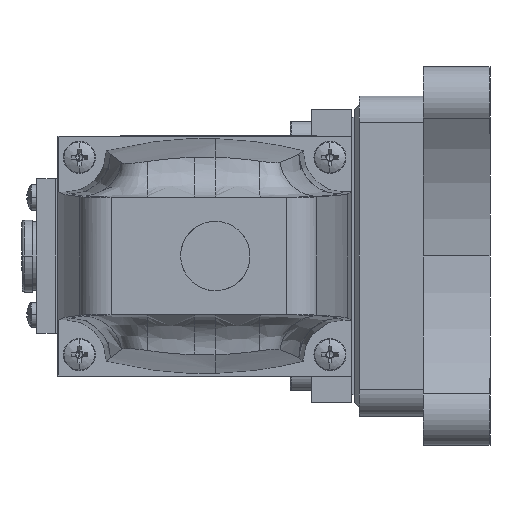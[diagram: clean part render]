
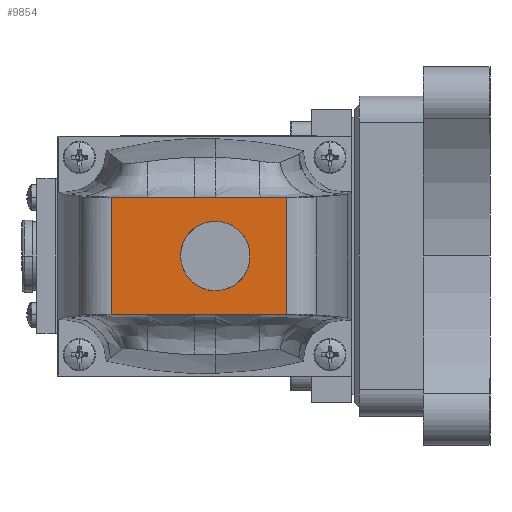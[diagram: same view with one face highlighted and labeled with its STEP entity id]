
A CAD part, left-side view. The second image highlights one B-rep face of the part: STEP entity #9854.
In plain terms, the highlighted planar face has unit normal (-1, 0, 0) as drawn and (0, 1, 0) by its records, which use the part's own axes.
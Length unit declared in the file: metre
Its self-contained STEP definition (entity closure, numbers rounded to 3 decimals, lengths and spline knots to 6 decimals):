
#94 = DIRECTION ( 'NONE',  ( -1., 0., 0. ) ) ;
#586 = ORIENTED_EDGE ( 'NONE', *, *, #8154, .T. ) ;
#1089 = EDGE_LOOP ( 'NONE', ( #1147, #586, #7686, #7956 ) ) ;
#1147 = ORIENTED_EDGE ( 'NONE', *, *, #10844, .F. ) ;
#1220 = CARTESIAN_POINT ( 'NONE',  ( -0.013, 0.2419, 0.001702 ) ) ;
#1631 = VERTEX_POINT ( 'NONE', #11099 ) ;
#1725 = LINE ( 'NONE', #11275, #11632 ) ;
#1867 = VERTEX_POINT ( 'NONE', #12520 ) ;
#2100 = EDGE_CURVE ( 'NONE', #1867, #1631, #10344, .T. ) ;
#2369 = CARTESIAN_POINT ( 'NONE',  ( 0., 0.2419, -0.013 ) ) ;
#2414 = CARTESIAN_POINT ( 'NONE',  ( -0.011359, 0.2419, 0.006547 ) ) ;
#2543 = FACE_BOUND ( 'NONE', #14559, .T. ) ;
#2829 = CARTESIAN_POINT ( 'NONE',  ( 0.001702, 0.2419, 0.013 ) ) ;
#3103 = EDGE_CURVE ( 'NONE', #6075, #9128, #4048, .T. ) ;
#3221 = CARTESIAN_POINT ( 'NONE',  ( 0.011359, 0.2419, 0.006547 ) ) ;
#3240 = CARTESIAN_POINT ( 'NONE',  ( 0.013, 0.2419, 0.001702 ) ) ;
#3269 = CARTESIAN_POINT ( 'NONE',  ( 0.012662, 0.2419, 0.003403 ) ) ;
#3299 = LINE ( 'NONE', #11006, #11147 ) ;
#3618 = CARTESIAN_POINT ( 'NONE',  ( -0.007989, 0.2419, 0.010396 ) ) ;
#3632 = CARTESIAN_POINT ( 'NONE',  ( 0., 0.2419, 0.013 ) ) ;
#3649 = CARTESIAN_POINT ( 'NONE',  ( 0.006547, 0.2419, -0.011359 ) ) ;
#3660 = CARTESIAN_POINT ( 'NONE',  ( 0., 0.2419, -0.026787 ) ) ;
#3682 = CARTESIAN_POINT ( 'NONE',  ( 0., 0.2419, -0.013 ) ) ;
#3717 = CARTESIAN_POINT ( 'NONE',  ( 0.001702, 0.2419, -0.013 ) ) ;
#3726 = CARTESIAN_POINT ( 'NONE',  ( 0.006547, 0.2419, 0.011359 ) ) ;
#3745 = CARTESIAN_POINT ( 'NONE',  ( 0.007989, 0.2419, 0.010396 ) ) ;
#3769 = CARTESIAN_POINT ( 'NONE',  ( 0.010396, 0.2419, 0.007989 ) ) ;
#3789 = CARTESIAN_POINT ( 'NONE',  ( 0.012662, 0.2419, -0.003403 ) ) ;
#3928 = CARTESIAN_POINT ( 'NONE',  ( 0.010396, 0.2419, -0.007989 ) ) ;
#3964 = CARTESIAN_POINT ( 'NONE',  ( 0.011359, 0.2419, -0.006547 ) ) ;
#4007 = CARTESIAN_POINT ( 'NONE',  ( 0.003403, 0.2419, 0.012662 ) ) ;
#4048 = LINE ( 'NONE', #3660, #14135 ) ;
#4359 = CARTESIAN_POINT ( 'NONE',  ( 0.013, 0.2419, -0.001702 ) ) ;
#4422 = CARTESIAN_POINT ( 'NONE',  ( 0.003403, 0.2419, -0.012662 ) ) ;
#4440 = B_SPLINE_CURVE_WITH_KNOTS ( 'NONE', 3,
 ( #2369, #5993, #4771, #13651, #6048, #14910, #7297, #16123, #8562, #1220, #9853, #2414, #11143, #3618, #12415, #4826, #13697, #6112 ),
 .UNSPECIFIED., .F., .F.,
 ( 4, 2, 2, 2, 2, 2, 2, 2, 4 ),
 ( 0., 0.125, 0.25, 0.375, 0.5, 0.625, 0.75, 0.875, 1. ),
 .UNSPECIFIED. ) ;
#4771 = CARTESIAN_POINT ( 'NONE',  ( -0.003403, 0.2419, -0.012662 ) ) ;
#4826 = CARTESIAN_POINT ( 'NONE',  ( -0.003403, 0.2419, 0.012662 ) ) ;
#5436 = CARTESIAN_POINT ( 'NONE',  ( -0.022, 0.2419, -0.026787 ) ) ;
#5863 = CARTESIAN_POINT ( 'NONE',  ( 0.007989, 0.2419, -0.010396 ) ) ;
#5993 = CARTESIAN_POINT ( 'NONE',  ( -0.001702, 0.2419, -0.013 ) ) ;
#6048 = CARTESIAN_POINT ( 'NONE',  ( -0.007989, 0.2419, -0.010396 ) ) ;
#6075 = VERTEX_POINT ( 'NONE', #12561 ) ;
#6112 = CARTESIAN_POINT ( 'NONE',  ( 0., 0.2419, 0.013 ) ) ;
#7025 = EDGE_CURVE ( 'NONE', #8182, #9128, #1725, .T. ) ;
#7297 = CARTESIAN_POINT ( 'NONE',  ( -0.011359, 0.2419, -0.006547 ) ) ;
#7686 = ORIENTED_EDGE ( 'NONE', *, *, #3103, .T. ) ;
#7956 = ORIENTED_EDGE ( 'NONE', *, *, #7025, .F. ) ;
#8088 = CARTESIAN_POINT ( 'NONE',  ( 0.022, 0.2419, 0.039094 ) ) ;
#8154 = EDGE_CURVE ( 'NONE', #9790, #6075, #12794, .T. ) ;
#8182 = VERTEX_POINT ( 'NONE', #11271 ) ;
#8562 = CARTESIAN_POINT ( 'NONE',  ( -0.013, 0.2419, -0.001702 ) ) ;
#9128 = VERTEX_POINT ( 'NONE', #5436 ) ;
#9148 = CARTESIAN_POINT ( 'NONE',  ( -0.022, 0.2419, 0.039094 ) ) ;
#9287 = DIRECTION ( 'NONE',  ( 0., -1., 0. ) ) ;
#9306 = PLANE ( 'NONE',  #9545 ) ;
#9545 = AXIS2_PLACEMENT_3D ( 'NONE', #9148, #9287, #9679 ) ;
#9641 = CARTESIAN_POINT ( 'NONE',  ( 0.022, 0.2419, 0.004 ) ) ;
#9679 = DIRECTION ( 'NONE',  ( 0., 0., -1. ) ) ;
#9790 = VERTEX_POINT ( 'NONE', #8088 ) ;
#9853 = CARTESIAN_POINT ( 'NONE',  ( -0.012662, 0.2419, 0.003403 ) ) ;
#9854 = ADVANCED_FACE ( 'NONE', ( #2543, #12919 ), #9306, .F. ) ;
#10344 = B_SPLINE_CURVE_WITH_KNOTS ( 'NONE', 3,
 ( #3632, #2829, #4007, #3726, #3745, #3769, #3221, #3269, #3240, #4359, #3789, #3964, #3928, #5863, #3649, #4422, #3717, #3682 ),
 .UNSPECIFIED., .F., .F.,
 ( 4, 2, 2, 2, 2, 2, 2, 2, 4 ),
 ( 0., 0.125, 0.25, 0.375, 0.5, 0.625, 0.75, 0.875, 1. ),
 .UNSPECIFIED. ) ;
#10844 = EDGE_CURVE ( 'NONE', #9790, #8182, #3299, .T. ) ;
#10956 = DIRECTION ( 'NONE',  ( -1., 0., 0. ) ) ;
#11006 = CARTESIAN_POINT ( 'NONE',  ( 0., 0.2419, 0.039094 ) ) ;
#11046 = DIRECTION ( 'NONE',  ( 0., 0., -1. ) ) ;
#11048 = DIRECTION ( 'NONE',  ( 0., 0., -1. ) ) ;
#11099 = CARTESIAN_POINT ( 'NONE',  ( 0., 0.2419, -0.013 ) ) ;
#11143 = CARTESIAN_POINT ( 'NONE',  ( -0.010396, 0.2419, 0.007989 ) ) ;
#11147 = VECTOR ( 'NONE', #10956, 1. ) ;
#11271 = CARTESIAN_POINT ( 'NONE',  ( -0.022, 0.2419, 0.039094 ) ) ;
#11275 = CARTESIAN_POINT ( 'NONE',  ( -0.022, 0.2419, 0.006154 ) ) ;
#11414 = ORIENTED_EDGE ( 'NONE', *, *, #2100, .F. ) ;
#11632 = VECTOR ( 'NONE', #11046, 1. ) ;
#12415 = CARTESIAN_POINT ( 'NONE',  ( -0.006547, 0.2419, 0.011359 ) ) ;
#12520 = CARTESIAN_POINT ( 'NONE',  ( 0., 0.2419, 0.013 ) ) ;
#12561 = CARTESIAN_POINT ( 'NONE',  ( 0.022, 0.2419, -0.026787 ) ) ;
#12794 = LINE ( 'NONE', #9641, #13187 ) ;
#12919 = FACE_OUTER_BOUND ( 'NONE', #1089, .T. ) ;
#13187 = VECTOR ( 'NONE', #11048, 1. ) ;
#13651 = CARTESIAN_POINT ( 'NONE',  ( -0.006547, 0.2419, -0.011359 ) ) ;
#13697 = CARTESIAN_POINT ( 'NONE',  ( -0.001702, 0.2419, 0.013 ) ) ;
#13886 = ORIENTED_EDGE ( 'NONE', *, *, #14529, .F. ) ;
#14135 = VECTOR ( 'NONE', #94, 1. ) ;
#14529 = EDGE_CURVE ( 'NONE', #1631, #1867, #4440, .T. ) ;
#14559 = EDGE_LOOP ( 'NONE', ( #11414, #13886 ) ) ;
#14910 = CARTESIAN_POINT ( 'NONE',  ( -0.010396, 0.2419, -0.007989 ) ) ;
#16123 = CARTESIAN_POINT ( 'NONE',  ( -0.012662, 0.2419, -0.003403 ) ) ;
